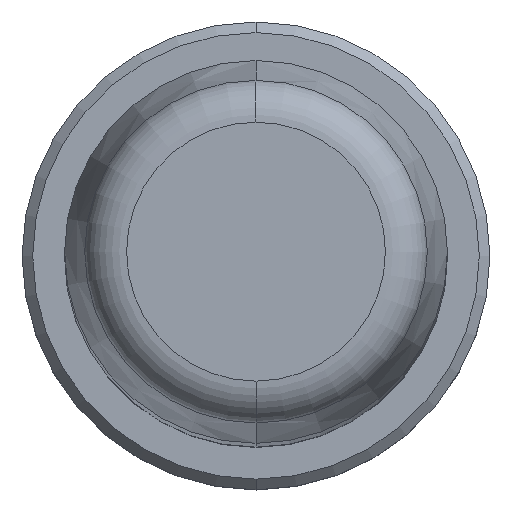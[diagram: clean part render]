
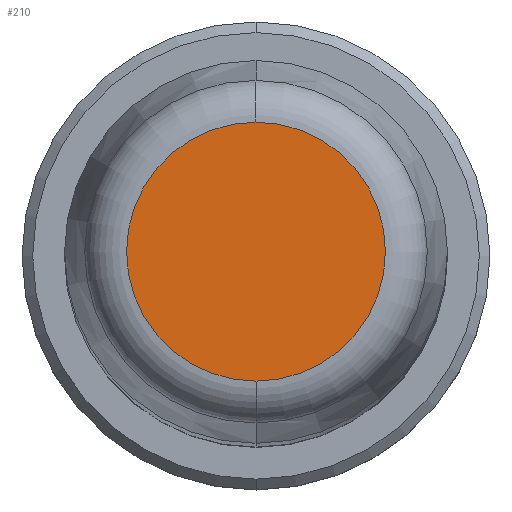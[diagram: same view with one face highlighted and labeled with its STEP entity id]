
A CAD part, top view. The second image highlights one B-rep face of the part: STEP entity #210.
In plain terms, the highlighted planar face has unit normal (0, 0, 1).
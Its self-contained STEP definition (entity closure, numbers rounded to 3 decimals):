
#1=CARTESIAN_POINT('',(0.,0.,120.));
#2=DIRECTION('',(0.,0.,-1.));
#3=DIRECTION('',(0.,-1.,0.));
#4=AXIS2_PLACEMENT_3D('',#1,#2,#3);
#6=CARTESIAN_POINT('',(0.,0.,120.));
#7=DIRECTION('',(0.,0.,-1.));
#8=DIRECTION('',(0.,1.,0.));
#9=AXIS2_PLACEMENT_3D('',#6,#7,#8);
#183=CARTESIAN_POINT('',(0.,-6.088,120.));
#184=CARTESIAN_POINT('',(0.,6.088,120.));
#185=VERTEX_POINT('',#183);
#186=VERTEX_POINT('',#184);
#199=CARTESIAN_POINT('',(0.,0.,120.));
#200=DIRECTION('',(0.,0.,1.));
#201=DIRECTION('',(0.,-1.,0.));
#202=AXIS2_PLACEMENT_3D('',#199,#200,#201);
#203=PLANE('',#202);
#205=ORIENTED_EDGE('',*,*,#204,.T.);
#207=ORIENTED_EDGE('',*,*,#206,.T.);
#208=EDGE_LOOP('',(#205,#207));
#209=FACE_OUTER_BOUND('',#208,.F.);
#210=ADVANCED_FACE('',(#209),#203,.T.);
#5=CIRCLE('',#4,6.088);
#10=CIRCLE('',#9,6.088);
#204=EDGE_CURVE('',#185,#186,#5,.T.);
#206=EDGE_CURVE('',#186,#185,#10,.T.);
